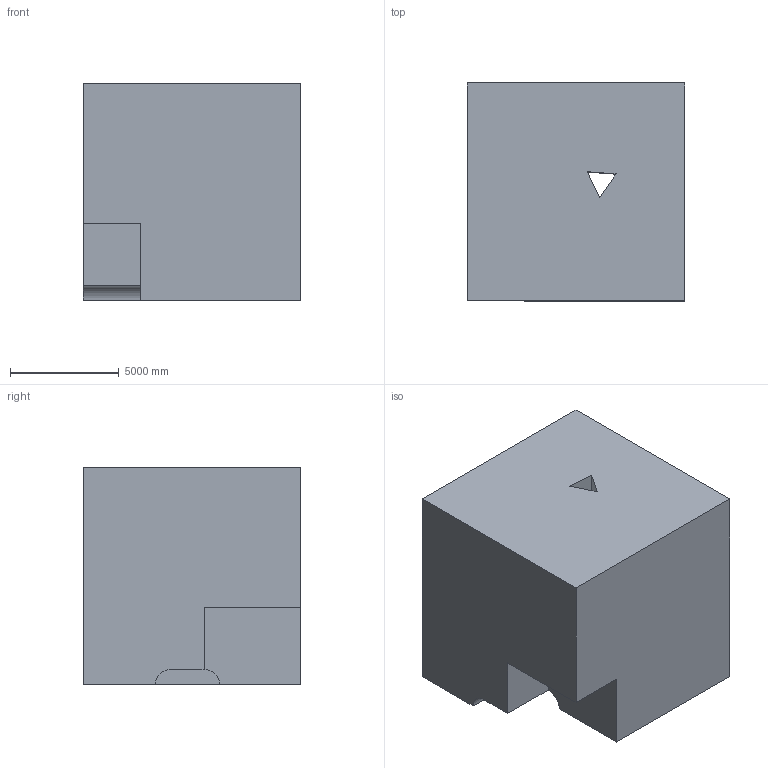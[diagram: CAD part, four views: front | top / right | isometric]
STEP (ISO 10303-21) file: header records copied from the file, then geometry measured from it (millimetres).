
FILE_DESCRIPTION (( 'STEP AP203' ), '1' );
FILE_NAME ('385.STEP', '2022-07-29T11:04:52', ( 'user' ), ( '' ), 'SwSTEP 2.0', 'SolidWorks 2021', '' );
FILE_SCHEMA (( 'CONFIG_CONTROL_DESIGN' ));
Length unit declared in the file: centimetre
Products named in the file (1): 385
Bounding box: 10000 x 10000 x 10000 mm (x, y, z)
Volume: 935660377120.8 mm3; surface area: 657114192.9 mm2
Topology: 1 solids, 1 shells, 21 faces, 57 edges, 38 vertices
Faces by surface type: plane 19, cylinder 2
Entity records: 736 total; most frequent: CARTESIAN_POINT 117, ORIENTED_EDGE 114, DIRECTION 105, EDGE_CURVE 57, VECTOR 53, LINE 53, VERTEX_POINT 38, AXIS2_PLACEMENT_3D 26
